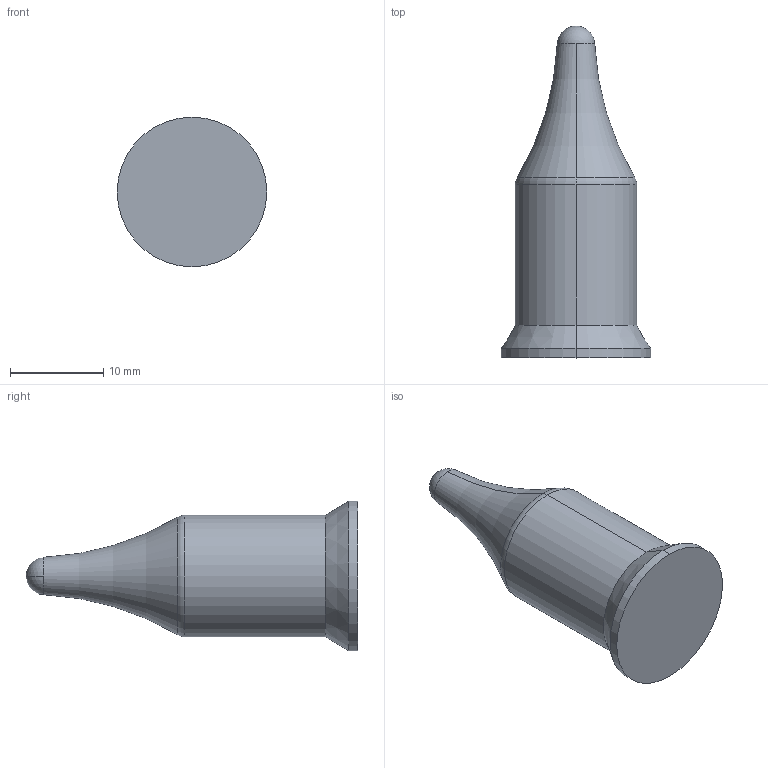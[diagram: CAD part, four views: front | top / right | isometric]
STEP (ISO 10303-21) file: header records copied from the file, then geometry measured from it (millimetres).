
FILE_DESCRIPTION (( 'STEP AP203' ), '1' );
FILE_NAME ('KCF-SW-PN-12P.STEP', '2022-04-05T06:57:22', ( '' ), ( '' ), 'SwSTEP 2.0', 'SolidWorks 2015', '' );
FILE_SCHEMA (( 'CONFIG_CONTROL_DESIGN' ));
Length unit declared in the file: millimetre
Products named in the file (2): KCF-SW-PN-12P
Bounding box: 16 x 35.5 x 16 mm (x, y, z)
Volume: 3345.3 mm3; surface area: 1391 mm2
Topology: 1 solids, 1 shells, 13 faces, 26 edges, 15 vertices
Faces by surface type: cylinder 4, torus 4, cone 2, sphere 2, plane 1
Entity records: 499 total; most frequent: DIRECTION 76, CARTESIAN_POINT 56, ORIENTED_EDGE 52, AXIS2_PLACEMENT_3D 35, EDGE_CURVE 26, CIRCLE 20, PERSON_AND_ORGANIZATION 16, VERTEX_POINT 15
